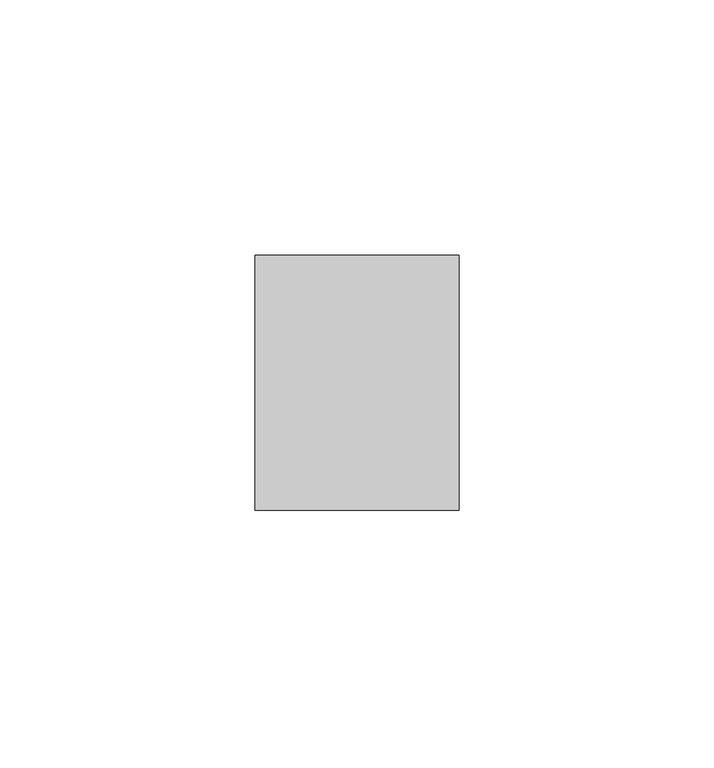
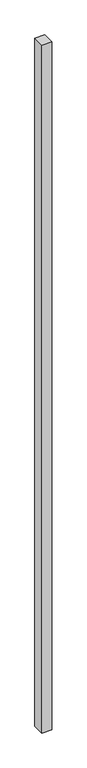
"""IFC4 building model written with IfcOpenShell, lengths in millimetres: member geometry, Прямоугольный импост : 40х50."""

from ifc_helpers import new_model, si_unit, frame, origin, place, context, project, spatial, polyline, outline, extrude, source, transform, mapped, element, save


def member_ddb9c0fe(model_context):
    return source(origin(), model_context, "Body", "SweptSolid", [
        extrude(outline(polyline([(20.0, 0.0), (20.0, -50.0), (-20.0, -50.0), (-20.0, 0.0), (20.0, 0.0)])), frame((0.0, 0.0, -3000.0), z_axis=(0.0, 0.0, 1.0), x_axis=(1.0, 0.0, 0.0)), (0.0, 0.0, 1.0), 3000.0),
    ])


if __name__ == "__main__":
    model = new_model("IFC4")
    model_context = context("Model", 3, world=origin())
    ifc_project = project(units=[si_unit("LENGTHUNIT", "METRE", prefix="MILLI")], contexts=[model_context])
    site = spatial("IfcSite", under=ifc_project)
    building = spatial("IfcBuilding", under=site)
    placement = place(None, origin())
    member_shape = member_ddb9c0fe(model_context)
    element("IfcMember", 1, ObjectType="Прямоугольный импост : 40х50", at=placement, inside=building, context=model_context, shape_type="MappedRepresentation", body=[
        mapped(member_shape, transform((0.0, 0.0, 0.0), x_axis=(1.0, 0.0, 0.0), y_axis=(0.0, 1.0, 0.0), z_axis=(0.0, 0.0, 1.0))),
    ])
    save(model, "model.ifc")
